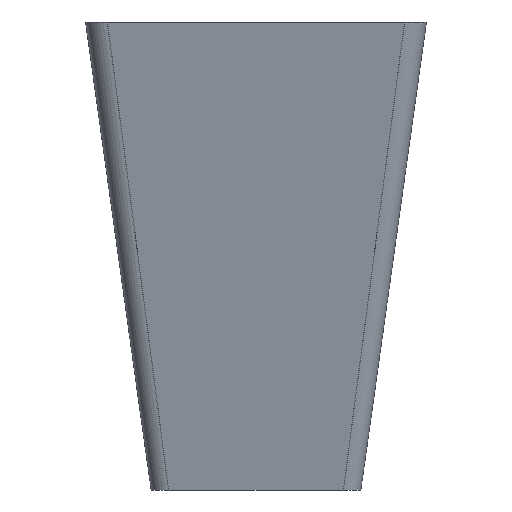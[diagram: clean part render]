
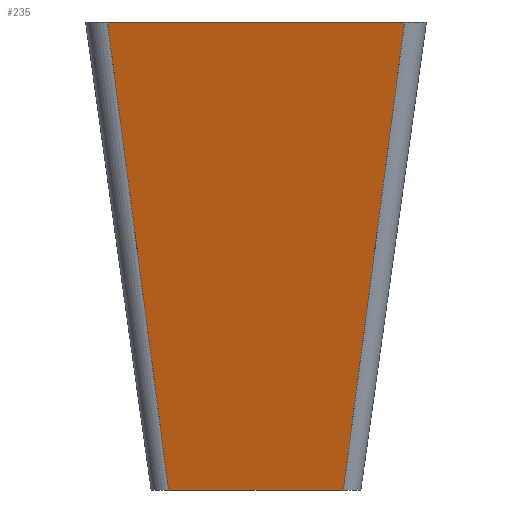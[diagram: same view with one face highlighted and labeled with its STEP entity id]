
A CAD part, front view. The second image highlights one B-rep face of the part: STEP entity #235.
In plain terms, the highlighted free-form (B-spline) face has degree [1, 1] with [2, 2] control points.
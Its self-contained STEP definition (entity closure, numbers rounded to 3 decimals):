
#43 = PLANE('',#44);
#44 = AXIS2_PLACEMENT_3D('',#45,#46,#47);
#45 = CARTESIAN_POINT('',(23.,-51.9,-12.71));
#46 = DIRECTION('',(0.,0.,1.));
#47 = DIRECTION('',(1.,0.,0.));
#70 = B_SPLINE_SURFACE_WITH_KNOTS('',7,1,(
    (#71,#72)
    ,(#73,#74)
    ,(#75,#76)
    ,(#77,#78)
    ,(#79,#80)
    ,(#81,#82)
    ,(#83,#84)
    ,(#85,#86
    )),.UNSPECIFIED.,.F.,.F.,.F.,(8,8),(2,2),(3.142,
    4.712),(0.,1.),.PIECEWISE_BEZIER_KNOTS.);
#71 = CARTESIAN_POINT('',(22.6,-52.3,-12.71));
#72 = CARTESIAN_POINT('',(21.1,-54.7,-2.));
#73 = CARTESIAN_POINT('',(22.6,-52.39,-12.71));
#74 = CARTESIAN_POINT('',(21.1,-54.812,-2.));
#75 = CARTESIAN_POINT('',(22.623,-52.48,-12.71));
#76 = CARTESIAN_POINT('',(21.129,-54.924,-2.));
#77 = CARTESIAN_POINT('',(22.67,-52.562,
    -12.71));
#78 = CARTESIAN_POINT('',(21.188,-55.027,-2.));
#79 = CARTESIAN_POINT('',(22.738,-52.63,-12.71));
#80 = CARTESIAN_POINT('',(21.273,-55.112,-2.));
#81 = CARTESIAN_POINT('',(22.82,-52.677,-12.71));
#82 = CARTESIAN_POINT('',(21.376,-55.171,-2.));
#83 = CARTESIAN_POINT('',(22.91,-52.7,-12.71));
#84 = CARTESIAN_POINT('',(21.488,-55.2,-2.));
#85 = CARTESIAN_POINT('',(23.,-52.7,-12.71));
#86 = CARTESIAN_POINT('',(21.6,-55.2,-2.));
#110 = PLANE('',#111);
#111 = AXIS2_PLACEMENT_3D('',#112,#113,#114);
#112 = CARTESIAN_POINT('',(21.6,-54.7,-2.));
#113 = DIRECTION('',(0.,0.,1.));
#114 = DIRECTION('',(1.,0.,0.));
#163 = VERTEX_POINT('',#164);
#164 = CARTESIAN_POINT('',(23.,-52.7,-12.71));
#186 = EDGE_CURVE('',#163,#187,#189,.T.);
#187 = VERTEX_POINT('',#188);
#188 = CARTESIAN_POINT('',(21.6,-55.2,-2.));
#189 = SURFACE_CURVE('',#190,(#193,#200),.PCURVE_S1.);
#190 = B_SPLINE_CURVE_WITH_KNOTS('',1,(#191,#192),.UNSPECIFIED.,.F.,.F.,
  (2,2),(0.,1.),.PIECEWISE_BEZIER_KNOTS.);
#191 = CARTESIAN_POINT('',(23.,-52.7,-12.71));
#192 = CARTESIAN_POINT('',(21.6,-55.2,-2.));
#193 = PCURVE('',#70,#194);
#194 = DEFINITIONAL_REPRESENTATION('',(#195),#199);
#195 = LINE('',#196,#197);
#196 = CARTESIAN_POINT('',(4.712,0.));
#197 = VECTOR('',#198,1.);
#198 = DIRECTION('',(0.,1.));
#199 = ( GEOMETRIC_REPRESENTATION_CONTEXT(2) 
PARAMETRIC_REPRESENTATION_CONTEXT() REPRESENTATION_CONTEXT('2D SPACE',''
  ) );
#200 = PCURVE('',#201,#206);
#201 = B_SPLINE_SURFACE_WITH_KNOTS('',1,1,(
    (#202,#203)
    ,(#204,#205
    )),.UNSPECIFIED.,.F.,.F.,.F.,(2,2),(2,2),(-3.4,3.4),(0.,1.),
  .PIECEWISE_BEZIER_KNOTS.);
#202 = CARTESIAN_POINT('',(23.,-52.7,-12.71));
#203 = CARTESIAN_POINT('',(21.6,-55.2,-2.));
#204 = CARTESIAN_POINT('',(27.,-52.7,-12.71));
#205 = CARTESIAN_POINT('',(28.4,-55.2,-2.));
#206 = DEFINITIONAL_REPRESENTATION('',(#207),#211);
#207 = LINE('',#208,#209);
#208 = CARTESIAN_POINT('',(-3.4,0.));
#209 = VECTOR('',#210,1.);
#210 = DIRECTION('',(0.,1.));
#211 = ( GEOMETRIC_REPRESENTATION_CONTEXT(2) 
PARAMETRIC_REPRESENTATION_CONTEXT() REPRESENTATION_CONTEXT('2D SPACE',''
  ) );
#235 = ADVANCED_FACE('',(#236),#201,.T.);
#236 = FACE_BOUND('',#237,.T.);
#237 = EDGE_LOOP('',(#238,#260,#299,#320));
#238 = ORIENTED_EDGE('',*,*,#239,.T.);
#239 = EDGE_CURVE('',#163,#240,#242,.T.);
#240 = VERTEX_POINT('',#241);
#241 = CARTESIAN_POINT('',(27.,-52.7,-12.71));
#242 = SURFACE_CURVE('',#243,(#247,#253),.PCURVE_S1.);
#243 = LINE('',#244,#245);
#244 = CARTESIAN_POINT('',(25.,-52.7,-12.71));
#245 = VECTOR('',#246,1.);
#246 = DIRECTION('',(1.,0.,0.));
#247 = PCURVE('',#201,#248);
#248 = DEFINITIONAL_REPRESENTATION('',(#249),#252);
#249 = B_SPLINE_CURVE_WITH_KNOTS('',1,(#250,#251),.UNSPECIFIED.,.F.,.F.,
  (2,2),(-2.,2.),.PIECEWISE_BEZIER_KNOTS.);
#250 = CARTESIAN_POINT('',(-3.4,0.));
#251 = CARTESIAN_POINT('',(3.4,0.));
#252 = ( GEOMETRIC_REPRESENTATION_CONTEXT(2) 
PARAMETRIC_REPRESENTATION_CONTEXT() REPRESENTATION_CONTEXT('2D SPACE',''
  ) );
#253 = PCURVE('',#43,#254);
#254 = DEFINITIONAL_REPRESENTATION('',(#255),#259);
#255 = LINE('',#256,#257);
#256 = CARTESIAN_POINT('',(2.,-0.8));
#257 = VECTOR('',#258,1.);
#258 = DIRECTION('',(1.,0.));
#259 = ( GEOMETRIC_REPRESENTATION_CONTEXT(2) 
PARAMETRIC_REPRESENTATION_CONTEXT() REPRESENTATION_CONTEXT('2D SPACE',''
  ) );
#260 = ORIENTED_EDGE('',*,*,#261,.T.);
#261 = EDGE_CURVE('',#240,#262,#264,.T.);
#262 = VERTEX_POINT('',#263);
#263 = CARTESIAN_POINT('',(28.4,-55.2,-2.));
#264 = SURFACE_CURVE('',#265,(#268,#275),.PCURVE_S1.);
#265 = B_SPLINE_CURVE_WITH_KNOTS('',1,(#266,#267),.UNSPECIFIED.,.F.,.F.,
  (2,2),(0.,1.),.PIECEWISE_BEZIER_KNOTS.);
#266 = CARTESIAN_POINT('',(27.,-52.7,-12.71));
#267 = CARTESIAN_POINT('',(28.4,-55.2,-2.));
#268 = PCURVE('',#201,#269);
#269 = DEFINITIONAL_REPRESENTATION('',(#270),#274);
#270 = LINE('',#271,#272);
#271 = CARTESIAN_POINT('',(3.4,0.));
#272 = VECTOR('',#273,1.);
#273 = DIRECTION('',(0.,1.));
#274 = ( GEOMETRIC_REPRESENTATION_CONTEXT(2) 
PARAMETRIC_REPRESENTATION_CONTEXT() REPRESENTATION_CONTEXT('2D SPACE',''
  ) );
#275 = PCURVE('',#276,#293);
#276 = B_SPLINE_SURFACE_WITH_KNOTS('',7,1,(
    (#277,#278)
    ,(#279,#280)
    ,(#281,#282)
    ,(#283,#284)
    ,(#285,#286)
    ,(#287,#288)
    ,(#289,#290)
    ,(#291,#292
    )),.UNSPECIFIED.,.F.,.F.,.F.,(8,8),(2,2),(4.712,
    6.283),(0.,1.),.PIECEWISE_BEZIER_KNOTS.);
#277 = CARTESIAN_POINT('',(27.,-52.7,-12.71));
#278 = CARTESIAN_POINT('',(28.4,-55.2,-2.));
#279 = CARTESIAN_POINT('',(27.09,-52.7,-12.71));
#280 = CARTESIAN_POINT('',(28.512,-55.2,-2.));
#281 = CARTESIAN_POINT('',(27.18,-52.677,-12.71));
#282 = CARTESIAN_POINT('',(28.624,-55.171,-2.));
#283 = CARTESIAN_POINT('',(27.262,-52.63,-12.71));
#284 = CARTESIAN_POINT('',(28.727,-55.112,-2.));
#285 = CARTESIAN_POINT('',(27.33,-52.562,-12.71));
#286 = CARTESIAN_POINT('',(28.812,-55.027,-2.));
#287 = CARTESIAN_POINT('',(27.377,-52.48,-12.71));
#288 = CARTESIAN_POINT('',(28.871,-54.924,-2.));
#289 = CARTESIAN_POINT('',(27.4,-52.39,-12.71));
#290 = CARTESIAN_POINT('',(28.9,-54.812,-2.));
#291 = CARTESIAN_POINT('',(27.4,-52.3,-12.71));
#292 = CARTESIAN_POINT('',(28.9,-54.7,-2.));
#293 = DEFINITIONAL_REPRESENTATION('',(#294),#298);
#294 = LINE('',#295,#296);
#295 = CARTESIAN_POINT('',(4.712,0.));
#296 = VECTOR('',#297,1.);
#297 = DIRECTION('',(0.,1.));
#298 = ( GEOMETRIC_REPRESENTATION_CONTEXT(2) 
PARAMETRIC_REPRESENTATION_CONTEXT() REPRESENTATION_CONTEXT('2D SPACE',''
  ) );
#299 = ORIENTED_EDGE('',*,*,#300,.F.);
#300 = EDGE_CURVE('',#187,#262,#301,.T.);
#301 = SURFACE_CURVE('',#302,(#306,#313),.PCURVE_S1.);
#302 = LINE('',#303,#304);
#303 = CARTESIAN_POINT('',(25.,-55.2,-2.));
#304 = VECTOR('',#305,1.);
#305 = DIRECTION('',(1.,0.,0.));
#306 = PCURVE('',#201,#307);
#307 = DEFINITIONAL_REPRESENTATION('',(#308),#312);
#308 = LINE('',#309,#310);
#309 = CARTESIAN_POINT('',(0.,1.));
#310 = VECTOR('',#311,1.);
#311 = DIRECTION('',(1.,0.));
#312 = ( GEOMETRIC_REPRESENTATION_CONTEXT(2) 
PARAMETRIC_REPRESENTATION_CONTEXT() REPRESENTATION_CONTEXT('2D SPACE',''
  ) );
#313 = PCURVE('',#110,#314);
#314 = DEFINITIONAL_REPRESENTATION('',(#315),#319);
#315 = LINE('',#316,#317);
#316 = CARTESIAN_POINT('',(3.4,-0.5));
#317 = VECTOR('',#318,1.);
#318 = DIRECTION('',(1.,0.));
#319 = ( GEOMETRIC_REPRESENTATION_CONTEXT(2) 
PARAMETRIC_REPRESENTATION_CONTEXT() REPRESENTATION_CONTEXT('2D SPACE',''
  ) );
#320 = ORIENTED_EDGE('',*,*,#186,.F.);
